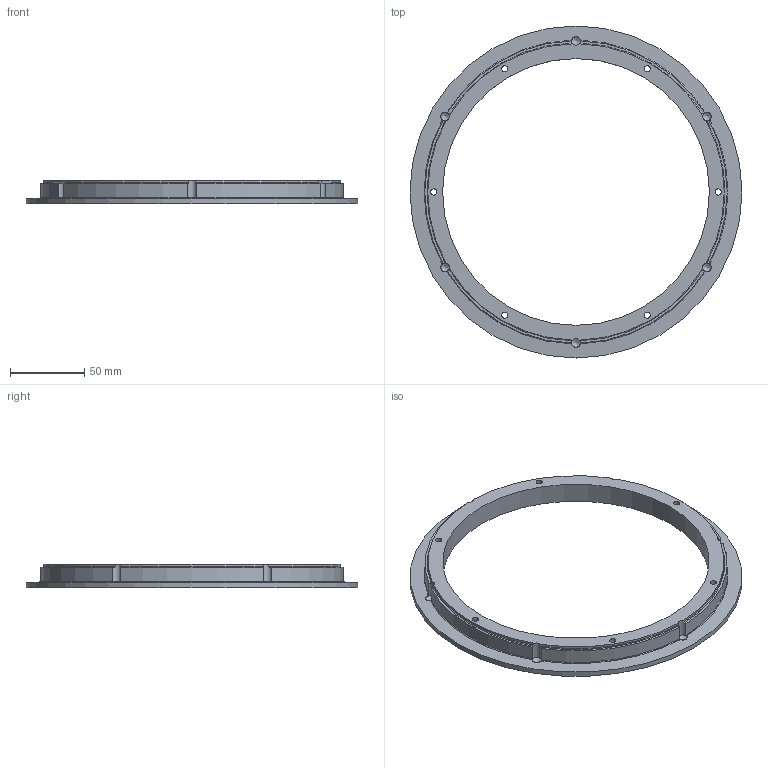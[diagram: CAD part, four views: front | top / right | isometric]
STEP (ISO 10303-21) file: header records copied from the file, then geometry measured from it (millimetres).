
FILE_DESCRIPTION( ( 'Unknown' ), '1' );
FILE_NAME( 'F:/navkite transat/construction/2016/3D ET ASSEMBLAGES/self tailing/WI 11.stp', 'Unknown', ( 'GMA' ), ( 'Unknown' ), 'XStep 1.0', 'Unknown', ' ' );
FILE_SCHEMA( ( 'automotive_design' ) );
Length unit declared in the file: millimetre
Products named in the file (1): 1
Bounding box: 224 x 224 x 16 mm (x, y, z)
Volume: 124609.2 mm3; surface area: 47884.9 mm2
Topology: 1 solids, 1 shells, 56 faces, 181 edges, 122 vertices
Faces by surface type: cylinder 27, cone 20, plane 9
Full cylindrical faces by diameter (mm): 4.2 x6, 180 x1, 200 x1, 224 x1
Entity records: 2422 total; most frequent: CARTESIAN_POINT 521, DIRECTION 296, ORIENTED_EDGE 290, EDGE_CURVE 145, AXIS2_PLACEMENT_3D 136, VERTEX_POINT 109, EDGE_LOOP 82, CIRCLE 79
